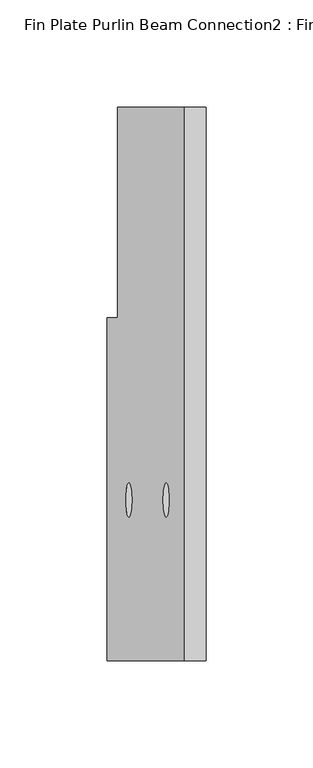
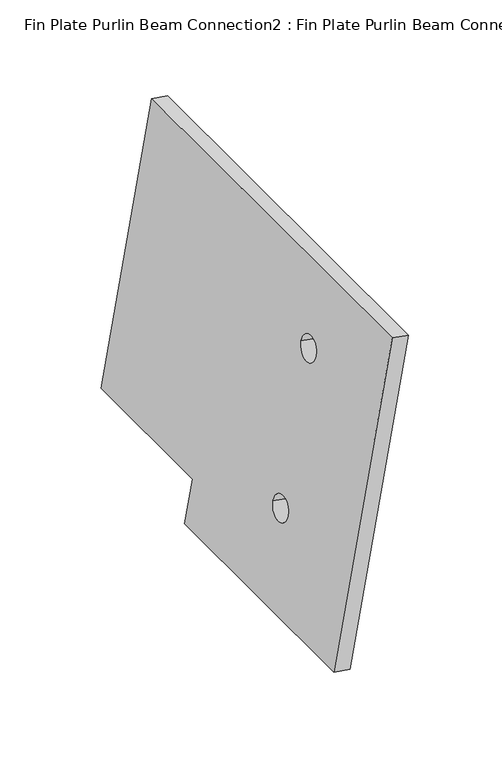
"""IFC4 building model written with IfcOpenShell, lengths in millimetres: proxy geometry, Fin Plate Purlin Beam Connection2 : Fin Plate Purlin Beam Connection."""

from ifc_helpers import new_model, si_unit, point, frame, frame_2d, origin, place, context, project, spatial, polyline, circle_curve, trimmed, segment, composite_curve, outline, extrude, source, transform, mapped, element, save


def fin_plate_purlin_beam_connection2_fin_plate_purlin_beam_d2efce1f(model_context):
    return source(origin(), model_context, "Body", "SweptSolid", [
        extrude(outline(polyline([(0.0, 0.0), (0.0, -181.2383863), (-258.2, -181.2383863), (-258.2, 27.7176621), (-98.2, 27.7176621), (-98.2, 0.0), (0.0, 0.0)]), holes=[composite_curve([segment(trimmed(circle_curve(frame_2d((-183.2, -131.2383863)), 8.0), [point((-175.2, -131.2383863))], [point((-191.2, -131.2383863))], True, "CARTESIAN"), True, "CONTINUOUS"), segment(trimmed(circle_curve(frame_2d((-183.2, -131.2383863)), 8.0), [point((-191.2, -131.2383863))], [point((-175.2, -131.2383863))], True, "CARTESIAN"), True, "CONTINUOUS")], self_intersect=False), composite_curve([segment(trimmed(circle_curve(frame_2d((-183.2, -31.2383863)), 8.0), [point((-175.2, -31.2383863))], [point((-191.2, -31.2383863))], True, "CARTESIAN"), True, "CONTINUOUS"), segment(trimmed(circle_curve(frame_2d((-183.2, -31.2383863)), 8.0), [point((-191.2, -31.2383863))], [point((-175.2, -31.2383863))], True, "CARTESIAN"), True, "CONTINUOUS")], self_intersect=False)]), frame((-31710.9687014, 11048.2549517, 3235.2038409), z_axis=(-0.9848077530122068, 0.0, 0.17364817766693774), x_axis=(0.0, 1.0, 0.0)), (0.0, 0.0, 1.0), 10.0),
    ])


if __name__ == "__main__":
    model = new_model("IFC4")
    model_context = context("Model", 3, world=origin())
    ifc_project = project(units=[si_unit("LENGTHUNIT", "METRE", prefix="MILLI")], contexts=[model_context])
    site = spatial("IfcSite", under=ifc_project)
    building = spatial("IfcBuilding", under=site)
    placement = place(None, origin())
    fin_plate_purlin_beam_connection2_fin_plate_purlin_beam_shape = fin_plate_purlin_beam_connection2_fin_plate_purlin_beam_d2efce1f(model_context)
    element("IfcBuildingElementProxy", 1, Name="Fin Plate Purlin Beam Connection2 : Fin Plate Purlin Beam Connection", ObjectType="Fin Plate Purlin Beam Connection2 : Fin Plate Purlin Beam Connection", at=placement, inside=building, context=model_context, shape_type="MappedRepresentation", body=[
        mapped(fin_plate_purlin_beam_connection2_fin_plate_purlin_beam_shape, transform((0.0, 0.0, 0.0), x_axis=(1.0, 0.0, 0.0), y_axis=(0.0, 1.0, 0.0), z_axis=(0.0, 0.0, 1.0))),
    ])
    save(model, "model.ifc")
